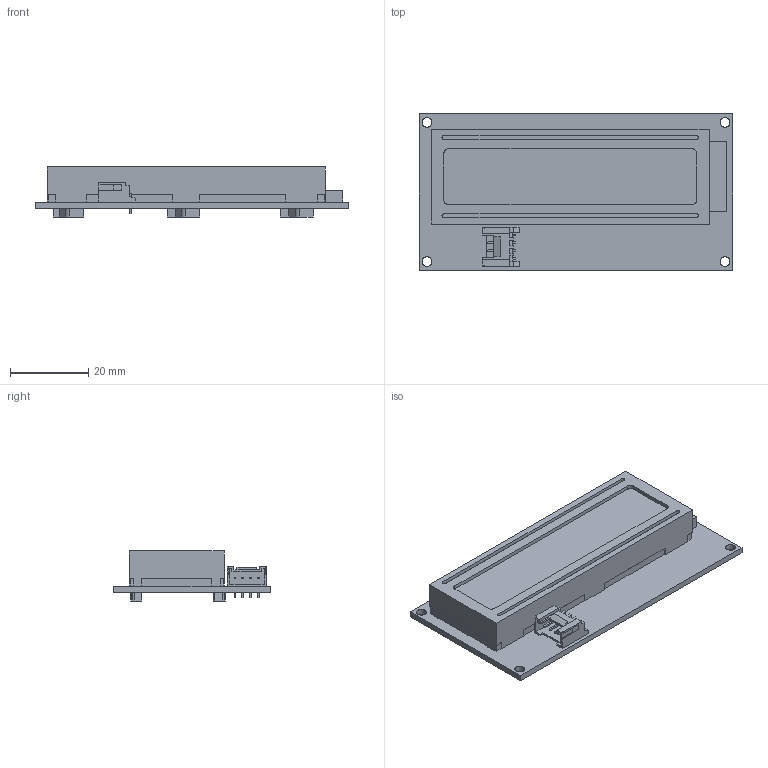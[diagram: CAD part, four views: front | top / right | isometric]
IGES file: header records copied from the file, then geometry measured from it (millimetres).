
Start section: SolidWorks IGES file using analytic representation for surfaces
Global section: file name: D:\Grove 16x2 LCD\Grove-16x2 LCD (Black on Yellow).IGS; native system: SolidWorks 2016; preprocessor: SolidWorks 2016; author: miche; date: 210213.201020; units: millimetre
Bounding box: 80 x 40 x 12.8 mm (x, y, z)
Surface area: 13495.7 mm2 (no closed solid volume)
Topology: 0 solids, 0 shells, 287 faces, 1944 edges, 1944 vertices
Faces by surface type: bspline 253, revolution 34
